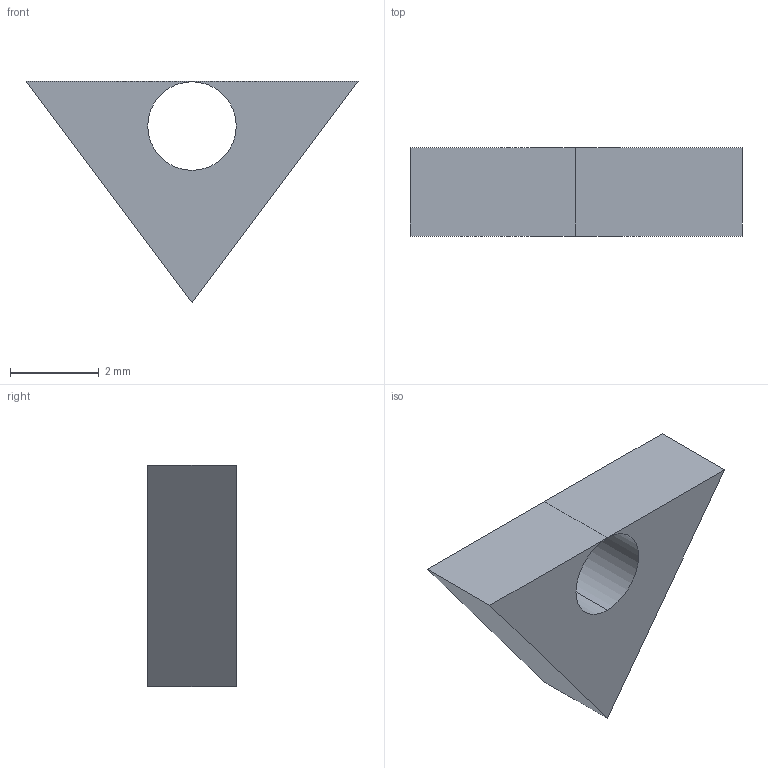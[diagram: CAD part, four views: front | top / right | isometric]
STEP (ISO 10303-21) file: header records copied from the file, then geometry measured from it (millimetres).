
FILE_DESCRIPTION(('STEP AP214'),'1');
FILE_NAME('tmp0.STEP','2026-06-08T19:03:18',(' '),(' '),'Spatial InterOp 3D',' ',' ');
FILE_SCHEMA(('AUTOMOTIVE_DESIGN { 1 0 10303 214 1 1 1 1 }'));
Length unit declared in the file: millimetre
Products named in the file (1): 1
Bounding box: 7.5 x 2 x 5 mm (x, y, z)
Volume: 31.2 mm3; surface area: 83.8 mm2
Topology: 1 solids, 1 shells, 7 faces, 15 edges, 10 vertices
Faces by surface type: plane 5, cylinder 2
Entity records: 222 total; most frequent: DIRECTION 35, CARTESIAN_POINT 33, ORIENTED_EDGE 30, EDGE_CURVE 15, AXIS2_PLACEMENT_3D 12, LINE 11, VECTOR 11, VERTEX_POINT 10
